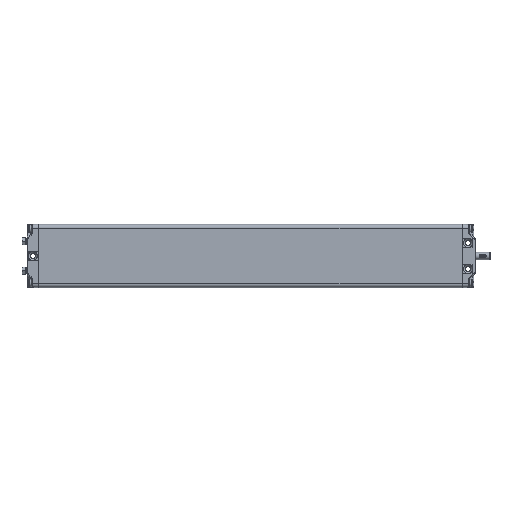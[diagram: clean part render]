
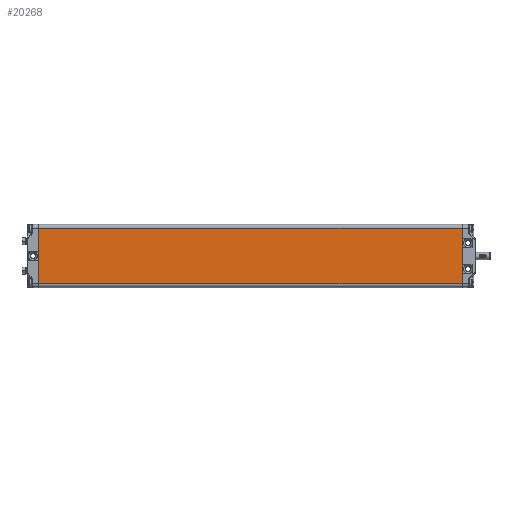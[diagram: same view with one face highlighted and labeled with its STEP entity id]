
A CAD part, top view. The second image highlights one B-rep face of the part: STEP entity #20268.
In plain terms, the highlighted planar face has unit normal (0, 0, 1).
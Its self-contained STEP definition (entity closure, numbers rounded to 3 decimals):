
#2488=LINE('',#48859,#3323);
#2489=LINE('',#48862,#3324);
#2490=LINE('',#48864,#3325);
#2491=LINE('',#48866,#3326);
#3323=VECTOR('',#25598,1000.);
#3324=VECTOR('',#25599,1000.);
#3325=VECTOR('',#25600,1000.);
#3326=VECTOR('',#25601,1000.);
#7464=ORIENTED_EDGE('',*,*,#11484,.T.);
#7465=ORIENTED_EDGE('',*,*,#11485,.T.);
#7466=ORIENTED_EDGE('',*,*,#11486,.T.);
#7467=ORIENTED_EDGE('',*,*,#11487,.T.);
#11484=EDGE_CURVE('',#13686,#13687,#2488,.T.);
#11485=EDGE_CURVE('',#13687,#13688,#2489,.F.);
#11486=EDGE_CURVE('',#13688,#13689,#2490,.F.);
#11487=EDGE_CURVE('',#13689,#13686,#2491,.T.);
#13686=VERTEX_POINT('',#48860);
#13687=VERTEX_POINT('',#48861);
#13688=VERTEX_POINT('',#48863);
#13689=VERTEX_POINT('',#48865);
#16058=EDGE_LOOP('',(#7464,#7465,#7466,#7467));
#17517=FACE_BOUND('',#16058,.T.);
#18320=PLANE('',#21961);
#20268=ADVANCED_FACE('',(#17517),#18320,.T.);
#21961=AXIS2_PLACEMENT_3D('',#48858,#25596,#25597);
#25596=DIRECTION('',(0.,0.,1.));
#25597=DIRECTION('',(1.,0.,0.));
#25598=DIRECTION('',(0.,-1.,0.));
#25599=DIRECTION('',(-1.,0.,0.));
#25600=DIRECTION('',(0.,-1.,0.));
#25601=DIRECTION('',(-1.,0.,0.));
#48858=CARTESIAN_POINT('',(42.5,570.5,17.5));
#48859=CARTESIAN_POINT('',(-37.5,570.5,17.5));
#48860=CARTESIAN_POINT('',(-37.5,570.,17.5));
#48861=CARTESIAN_POINT('',(-37.5,0.5,17.5));
#48862=CARTESIAN_POINT('',(37.5,0.5,17.5));
#48863=CARTESIAN_POINT('',(37.5,0.5,17.5));
#48864=CARTESIAN_POINT('',(37.5,570.5,17.5));
#48865=CARTESIAN_POINT('',(37.5,570.,17.5));
#48866=CARTESIAN_POINT('',(42.5,570.,17.5));
